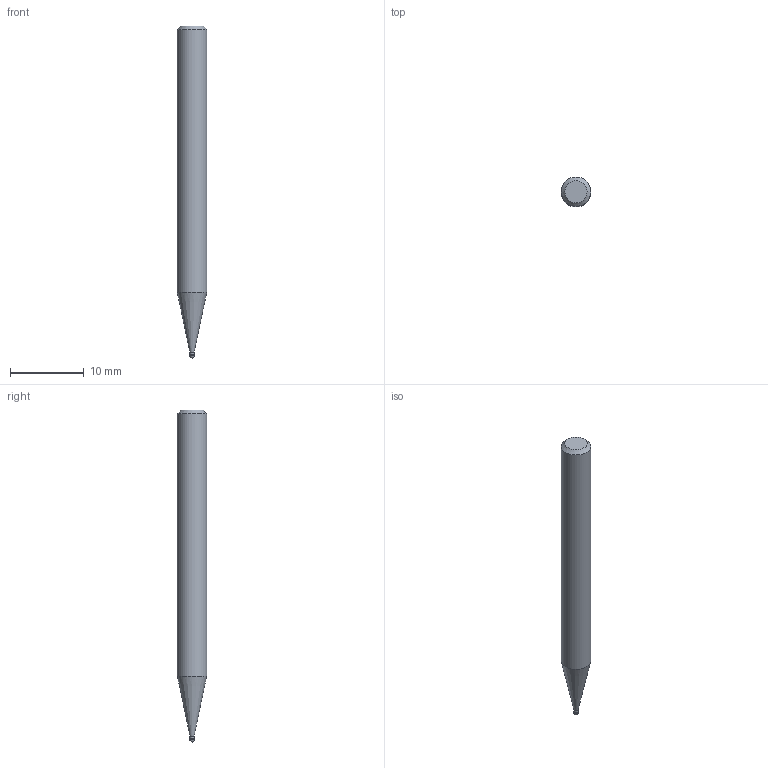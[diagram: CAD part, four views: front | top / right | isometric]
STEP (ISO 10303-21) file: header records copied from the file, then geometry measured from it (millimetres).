
FILE_DESCRIPTION((''),'2;1');
FILE_NAME('C:\Users\nsx150\AppData\Local\Temp\Mastercam 2021\ARV7HD45SN\TEMP.step','2023-06-13T16:33:48',(''),(''),'STEP Write','Mastercam 2021 ... CNC Software, Inc.','');
FILE_SCHEMA(('AUTOMOTIVE_DESIGN'));
Length unit declared in the file: millimetre
Products named in the file (1): None
Bounding box: 4 x 4 x 45 mm (x, y, z)
Volume: 491.8 mm3; surface area: 523.6 mm2
Topology: 2 solids, 2 shells, 9 faces, 14 edges, 8 vertices
Faces by surface type: plane 3, cylinder 3, cone 2, sphere 1
Full cylindrical faces by diameter (mm): 0.56 x1, 0.6 x1, 4 x1
Entity records: 211 total; most frequent: DIRECTION 36, CARTESIAN_POINT 25, AXIS2_PLACEMENT_3D 18, ORIENTED_EDGE 14, EDGE_LOOP 14, STYLED_ITEM 12, ADVANCED_FACE 9, FACE_BOUND 8
